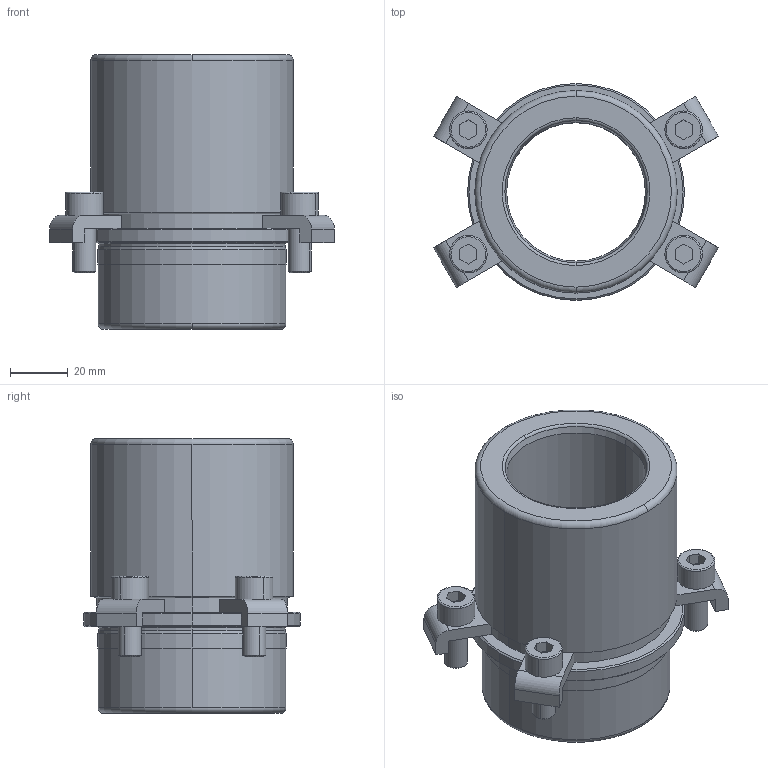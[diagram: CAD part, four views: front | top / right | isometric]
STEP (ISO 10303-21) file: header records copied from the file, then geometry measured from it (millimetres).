
FILE_DESCRIPTION((''),'2;1');
FILE_NAME('B40_040_065.stp','2009-01-05T16:33:32',(''),(''),'Mechanical Desktop 2009','Mechanical Desktop 2009',', , ');
FILE_SCHEMA(('CONFIG_CONTROL_DESIGN'));
Length unit declared in the file: millimetre
Products named in the file (2): Product; blmdl1
Assembly tree (1 placements, depth 2):
  Product
    blmdl1
Bounding box: 98.54 x 75 x 95 mm (x, y, z)
Volume: 190801.9 mm3; surface area: 48961.1 mm2
Topology: 9 solids, 9 shells, 173 faces, 422 edges, 278 vertices
Faces by surface type: plane 73, cylinder 50, cone 22, torus 16, bspline 12
Entity records: 5767 total; most frequent: CARTESIAN_POINT 1403, DIRECTION 966, ORIENTED_EDGE 844, EDGE_CURVE 422, AXIS2_PLACEMENT_3D 381, VERTEX_POINT 278, CIRCLE 218, VECTOR 204
